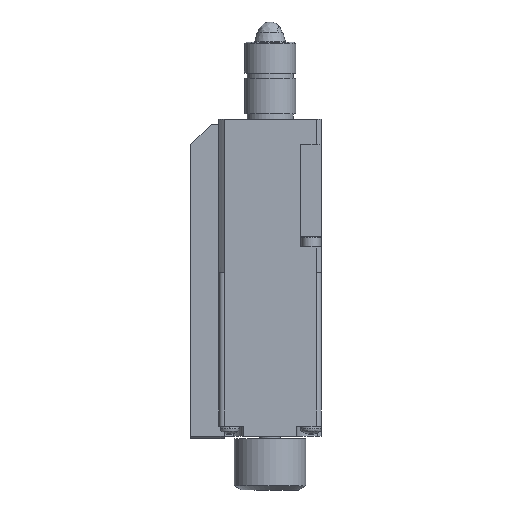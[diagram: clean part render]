
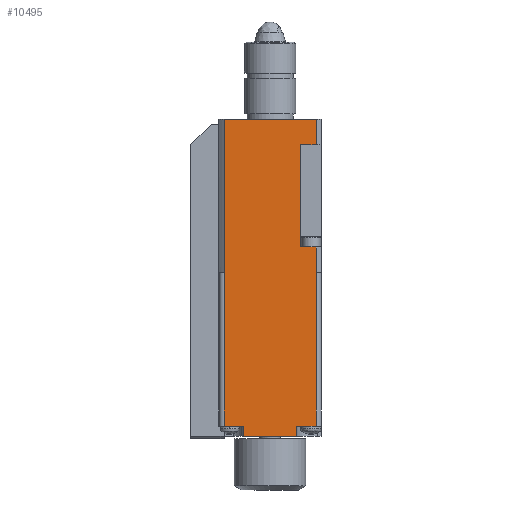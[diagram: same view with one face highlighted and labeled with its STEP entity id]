
A CAD part, front view. The second image highlights one B-rep face of the part: STEP entity #10495.
In plain terms, the highlighted planar face has unit normal (0, -1, 0).
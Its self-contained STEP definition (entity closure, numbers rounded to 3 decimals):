
#1947 = CARTESIAN_POINT ( 'NONE',  ( 19., 0., 0. ) ) ;
#2035 = CARTESIAN_POINT ( 'NONE',  ( 18.995, 0., 0. ) ) ;
#2458 = DIRECTION ( 'NONE',  ( 1., 0., 0. ) ) ;
#2459 = VECTOR ( 'NONE', #2458, 1000. ) ;
#2461 = CARTESIAN_POINT ( 'NONE',  ( 10., 0., 0. ) ) ;
#2471 = LINE ( 'NONE', #2461, #2459 ) ;
#2601 = DIRECTION ( 'NONE',  ( 1., 0., 0. ) ) ;
#2602 = VECTOR ( 'NONE', #2601, 1000. ) ;
#2603 = CARTESIAN_POINT ( 'NONE',  ( 10., 0., 0. ) ) ;
#2604 = LINE ( 'NONE', #2603, #2602 ) ;
#2649 = CARTESIAN_POINT ( 'NONE',  ( 1.005, 0., 0. ) ) ;
#2652 = CARTESIAN_POINT ( 'NONE',  ( 1., 0., 0. ) ) ;
#2973 = CARTESIAN_POINT ( 'NONE',  ( 19., 0., -23. ) ) ;
#2974 = LINE ( 'NONE', #2973, #3072 ) ;
#2976 = CARTESIAN_POINT ( 'NONE',  ( 16., 0., 5. ) ) ;
#3038 = DIRECTION ( 'NONE',  ( 0., 0., 1. ) ) ;
#3040 = VECTOR ( 'NONE', #3038, 1000. ) ;
#3041 = CARTESIAN_POINT ( 'NONE',  ( 18.995, 0., -23. ) ) ;
#3043 = LINE ( 'NONE', #3041, #3040 ) ;
#3047 = CARTESIAN_POINT ( 'NONE',  ( 18.995, 0., 5. ) ) ;
#3070 = DIRECTION ( 'NONE',  ( 0., 0., 1. ) ) ;
#3072 = VECTOR ( 'NONE', #3070, 1000. ) ;
#3077 = DIRECTION ( 'NONE',  ( 1., 0., 0. ) ) ;
#3078 = VECTOR ( 'NONE', #3077, 1000. ) ;
#3079 = CARTESIAN_POINT ( 'NONE',  ( 20., 0., 25. ) ) ;
#3080 = LINE ( 'NONE', #3079, #3078 ) ;
#3084 = CARTESIAN_POINT ( 'NONE',  ( 18.995, 0., 25. ) ) ;
#3113 = DIRECTION ( 'NONE',  ( 0., 0., 1. ) ) ;
#3114 = VECTOR ( 'NONE', #3113, 1000. ) ;
#3115 = CARTESIAN_POINT ( 'NONE',  ( 18.995, 0., -23. ) ) ;
#3117 = LINE ( 'NONE', #3115, #3114 ) ;
#3161 = DIRECTION ( 'NONE',  ( 0., 0., 1. ) ) ;
#3162 = VECTOR ( 'NONE', #3161, 1000. ) ;
#3163 = CARTESIAN_POINT ( 'NONE',  ( 16., 0., -23. ) ) ;
#3164 = LINE ( 'NONE', #3163, #3162 ) ;
#3171 = CARTESIAN_POINT ( 'NONE',  ( 16., 0., 25. ) ) ;
#3189 = DIRECTION ( 'NONE',  ( -1., 0., 0. ) ) ;
#3190 = VECTOR ( 'NONE', #3189, 1000. ) ;
#3191 = CARTESIAN_POINT ( 'NONE',  ( 20., 0., 5. ) ) ;
#3193 = LINE ( 'NONE', #3191, #3190 ) ;
#3194 = CARTESIAN_POINT ( 'NONE',  ( 18.995, 0., 30. ) ) ;
#3213 = LINE ( 'NONE', #3326, #3324 ) ;
#3233 = DIRECTION ( 'NONE',  ( 0., 0., -1. ) ) ;
#3234 = VECTOR ( 'NONE', #3233, 1000. ) ;
#3235 = CARTESIAN_POINT ( 'NONE',  ( 1., 0., -23. ) ) ;
#3244 = LINE ( 'NONE', #3235, #3234 ) ;
#3278 = DIRECTION ( 'NONE',  ( 1., 0., 0. ) ) ;
#3280 = VECTOR ( 'NONE', #3278, 1000. ) ;
#3282 = CARTESIAN_POINT ( 'NONE',  ( 20., 0., -32. ) ) ;
#3283 = LINE ( 'NONE', #3282, #3280 ) ;
#3286 = CARTESIAN_POINT ( 'NONE',  ( 15.25, 0., -32. ) ) ;
#3302 = DIRECTION ( 'NONE',  ( -1., 0., 0. ) ) ;
#3303 = VECTOR ( 'NONE', #3302, 1000. ) ;
#3304 = CARTESIAN_POINT ( 'NONE',  ( 20., 0., 30. ) ) ;
#3305 = LINE ( 'NONE', #3304, #3303 ) ;
#3309 = CARTESIAN_POINT ( 'NONE',  ( 1.005, 0., 30. ) ) ;
#3323 = DIRECTION ( 'NONE',  ( 0., 0., -1. ) ) ;
#3324 = VECTOR ( 'NONE', #3323, 1000. ) ;
#3326 = CARTESIAN_POINT ( 'NONE',  ( 1.005, 0., -23. ) ) ;
#3359 = CARTESIAN_POINT ( 'NONE',  ( 4.75, 0., -30. ) ) ;
#3361 = DIRECTION ( 'NONE',  ( 1., 0., 0. ) ) ;
#3363 = VECTOR ( 'NONE', #3361, 1000. ) ;
#3365 = CARTESIAN_POINT ( 'NONE',  ( 20., 0., -30. ) ) ;
#3367 = LINE ( 'NONE', #3365, #3363 ) ;
#3381 = DIRECTION ( 'NONE',  ( 0., 0., -1. ) ) ;
#3383 = VECTOR ( 'NONE', #3381, 1000. ) ;
#3385 = CARTESIAN_POINT ( 'NONE',  ( 4.75, 0., -23. ) ) ;
#3386 = LINE ( 'NONE', #3385, #3383 ) ;
#3388 = CARTESIAN_POINT ( 'NONE',  ( 4.75, 0., -32. ) ) ;
#3416 = DIRECTION ( 'NONE',  ( 0., 0., 1. ) ) ;
#3417 = VECTOR ( 'NONE', #3416, 1000. ) ;
#3418 = CARTESIAN_POINT ( 'NONE',  ( 15.25, 0., -23. ) ) ;
#3419 = LINE ( 'NONE', #3418, #3417 ) ;
#3422 = CARTESIAN_POINT ( 'NONE',  ( 15.25, 0., -30. ) ) ;
#3440 = DIRECTION ( 'NONE',  ( 1., 0., 0. ) ) ;
#3441 = DIRECTION ( 'NONE',  ( 0., -1., 0. ) ) ;
#3442 = CARTESIAN_POINT ( 'NONE',  ( 20., 0., -23. ) ) ;
#3443 = AXIS2_PLACEMENT_3D ( 'NONE', #3442, #3441, #3440 ) ;
#3445 = PLANE ( 'NONE',  #3443 ) ;
#3450 = FACE_OUTER_BOUND ( 'NONE', #10496, .T. ) ;
#3452 = DIRECTION ( 'NONE',  ( 1., 0., 0. ) ) ;
#3453 = VECTOR ( 'NONE', #3452, 1000. ) ;
#3454 = CARTESIAN_POINT ( 'NONE',  ( 20., 0., -30. ) ) ;
#3455 = LINE ( 'NONE', #3454, #3453 ) ;
#5027 = CARTESIAN_POINT ( 'NONE',  ( 2., 0., -30. ) ) ;
#7251 = CARTESIAN_POINT ( 'NONE',  ( 1., 0., -30. ) ) ;
#7412 = DIRECTION ( 'NONE',  ( -1., 0., 0. ) ) ;
#7413 = VECTOR ( 'NONE', #7412, 1000. ) ;
#7414 = CARTESIAN_POINT ( 'NONE',  ( 2.375, 0., -30. ) ) ;
#7415 = LINE ( 'NONE', #7414, #7413 ) ;
#7817 = CARTESIAN_POINT ( 'NONE',  ( 18., 0., -30. ) ) ;
#7818 = DIRECTION ( 'NONE',  ( -1., 0., 0. ) ) ;
#7819 = VECTOR ( 'NONE', #7818, 1000. ) ;
#7820 = CARTESIAN_POINT ( 'NONE',  ( 17.625, 0., -30. ) ) ;
#7821 = LINE ( 'NONE', #7820, #7819 ) ;
#7822 = CARTESIAN_POINT ( 'NONE',  ( 19., 0., -30. ) ) ;
#9907 = VERTEX_POINT ( 'NONE', #1947 ) ;
#9913 = VERTEX_POINT ( 'NONE', #2035 ) ;
#9969 = EDGE_CURVE ( 'NONE', #9913, #9907, #2471, .T. ) ;
#10012 = EDGE_CURVE ( 'NONE', #10035, #10037, #2604, .T. ) ;
#10035 = VERTEX_POINT ( 'NONE', #2652 ) ;
#10037 = VERTEX_POINT ( 'NONE', #2649 ) ;
#10319 = VERTEX_POINT ( 'NONE', #2976 ) ;
#10323 = EDGE_CURVE ( 'NONE', #13353, #9907, #2974, .T. ) ;
#10331 = VERTEX_POINT ( 'NONE', #3047 ) ;
#10333 = EDGE_CURVE ( 'NONE', #9913, #10331, #3043, .T. ) ;
#10352 = EDGE_CURVE ( 'NONE', #10366, #10375, #3117, .T. ) ;
#10366 = VERTEX_POINT ( 'NONE', #3084 ) ;
#10368 = EDGE_CURVE ( 'NONE', #10382, #10366, #3080, .T. ) ;
#10375 = VERTEX_POINT ( 'NONE', #3194 ) ;
#10376 = EDGE_CURVE ( 'NONE', #10331, #10319, #3193, .T. ) ;
#10382 = VERTEX_POINT ( 'NONE', #3171 ) ;
#10384 = EDGE_CURVE ( 'NONE', #10319, #10382, #3164, .T. ) ;
#10398 = EDGE_CURVE ( 'NONE', #10035, #13076, #3244, .T. ) ;
#10414 = EDGE_CURVE ( 'NONE', #10421, #10037, #3213, .T. ) ;
#10421 = VERTEX_POINT ( 'NONE', #3309 ) ;
#10423 = EDGE_CURVE ( 'NONE', #10375, #10421, #3305, .T. ) ;
#10431 = VERTEX_POINT ( 'NONE', #3286 ) ;
#10433 = EDGE_CURVE ( 'NONE', #10453, #10431, #3283, .T. ) ;
#10453 = VERTEX_POINT ( 'NONE', #3388 ) ;
#10455 = EDGE_CURVE ( 'NONE', #10465, #10453, #3386, .T. ) ;
#10464 = EDGE_CURVE ( 'NONE', #11038, #10465, #3367, .T. ) ;
#10465 = VERTEX_POINT ( 'NONE', #3359 ) ;
#10479 = ORIENTED_EDGE ( 'NONE', *, *, #9969, .F. ) ;
#10480 = ORIENTED_EDGE ( 'NONE', *, *, #10333, .T. ) ;
#10481 = ORIENTED_EDGE ( 'NONE', *, *, #10376, .T. ) ;
#10482 = ORIENTED_EDGE ( 'NONE', *, *, #10384, .T. ) ;
#10483 = ORIENTED_EDGE ( 'NONE', *, *, #10368, .T. ) ;
#10484 = ORIENTED_EDGE ( 'NONE', *, *, #10352, .T. ) ;
#10485 = ORIENTED_EDGE ( 'NONE', *, *, #10423, .T. ) ;
#10486 = ORIENTED_EDGE ( 'NONE', *, *, #10414, .T. ) ;
#10487 = ORIENTED_EDGE ( 'NONE', *, *, #10012, .F. ) ;
#10488 = ORIENTED_EDGE ( 'NONE', *, *, #10398, .T. ) ;
#10492 = EDGE_CURVE ( 'NONE', #10504, #13356, #3455, .T. ) ;
#10495 = ADVANCED_FACE ( 'NONE', ( #3450 ), #3445, .T. ) ;
#10496 = EDGE_LOOP ( 'NONE', ( #10497, #10498, #10499, #10479, #10480, #10481, #10482, #10483, #10484, #10485, #10486, #10487, #10488, #10548, #10549, #10550, #10551, #10552 ) ) ;
#10497 = ORIENTED_EDGE ( 'NONE', *, *, #10492, .T. ) ;
#10498 = ORIENTED_EDGE ( 'NONE', *, *, #13355, .F. ) ;
#10499 = ORIENTED_EDGE ( 'NONE', *, *, #10323, .T. ) ;
#10504 = VERTEX_POINT ( 'NONE', #3422 ) ;
#10506 = EDGE_CURVE ( 'NONE', #10431, #10504, #3419, .T. ) ;
#10548 = ORIENTED_EDGE ( 'NONE', *, *, #13133, .F. ) ;
#10549 = ORIENTED_EDGE ( 'NONE', *, *, #10464, .T. ) ;
#10550 = ORIENTED_EDGE ( 'NONE', *, *, #10455, .T. ) ;
#10551 = ORIENTED_EDGE ( 'NONE', *, *, #10433, .T. ) ;
#10552 = ORIENTED_EDGE ( 'NONE', *, *, #10506, .T. ) ;
#11038 = VERTEX_POINT ( 'NONE', #5027 ) ;
#13076 = VERTEX_POINT ( 'NONE', #7251 ) ;
#13133 = EDGE_CURVE ( 'NONE', #11038, #13076, #7415, .T. ) ;
#13353 = VERTEX_POINT ( 'NONE', #7822 ) ;
#13355 = EDGE_CURVE ( 'NONE', #13353, #13356, #7821, .T. ) ;
#13356 = VERTEX_POINT ( 'NONE', #7817 ) ;
